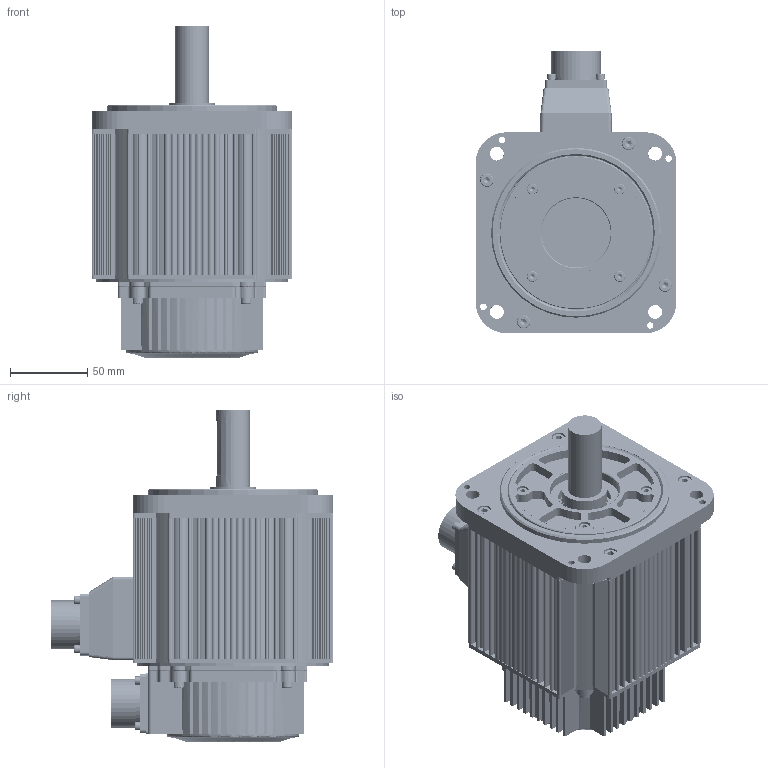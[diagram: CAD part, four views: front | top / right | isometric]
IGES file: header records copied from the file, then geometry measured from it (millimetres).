
Start section: SolidWorks IGES file using analytic representation for surfaces
Global section: file name: E:\est2012\qianronghua\zhang2012.4.17\2012.11.22 EMG10A\EMG-10 35¹éµµ2012.11.23\EMG10A.IGS; native system: SolidWorks 2011; preprocessor: SolidWorks 2011; author: qianronghua; date: 121123.112743; units: millimetre
Bounding box: 130 x 183.1 x 215 mm (x, y, z)
Surface area: 377271.8 mm2 (no closed solid volume)
Topology: 0 solids, 0 shells, 2420 faces, 36799 edges, 36751 vertices
Faces by surface type: revolution 1234, bspline 1186
